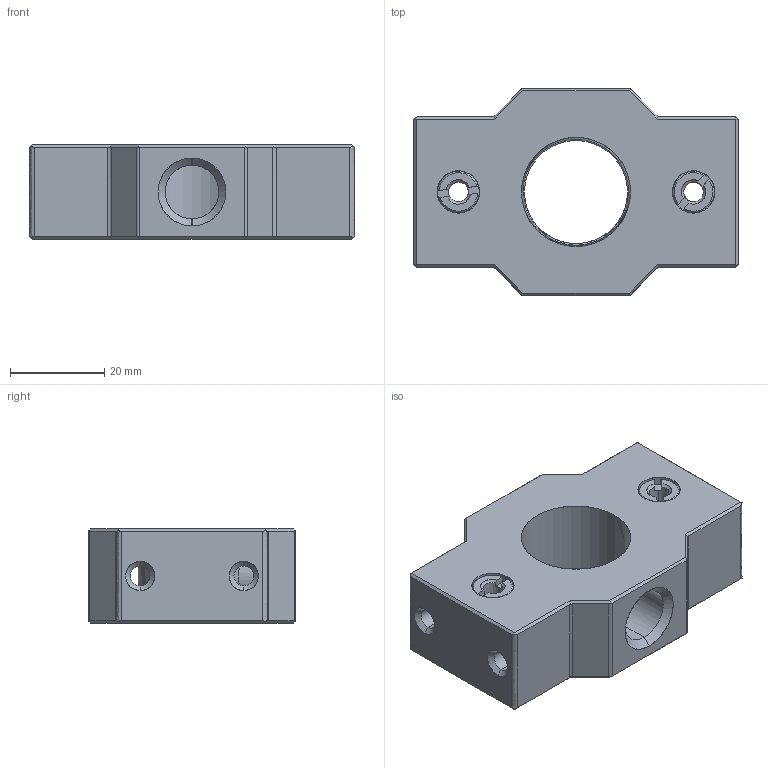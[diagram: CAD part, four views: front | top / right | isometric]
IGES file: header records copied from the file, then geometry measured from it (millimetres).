
Start section: SolidWorks IGES file using analytic representation for surfaces
Global section: file name: C:\Documents and Settings\Administrator\桌面\ZGUFR06SB.IGS,1; native system: 5HSolidWorks 2012; preprocessor: SolidWorks 2012; author: Administrator; date: 140702.174534; units: millimetre
Bounding box: 69 x 44 x 20 mm (x, y, z)
Surface area: 12835.9 mm2 (no closed solid volume)
Topology: 0 solids, 0 shells, 128 faces, 1949 edges, 2299 vertices
Faces by surface type: revolution 68, bspline 60
